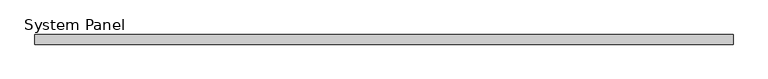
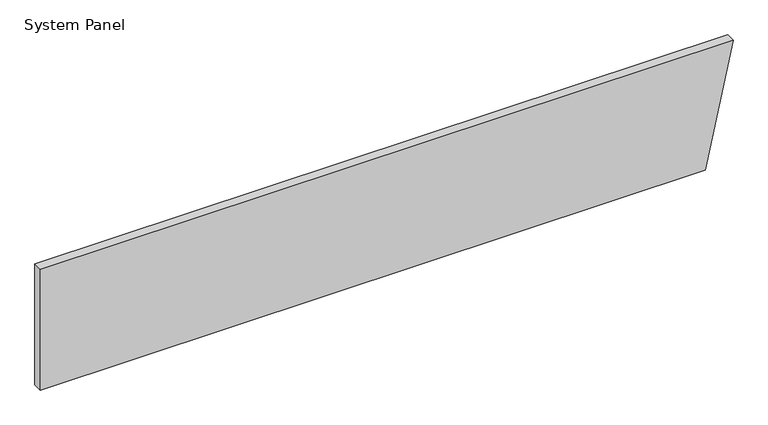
"""IFC4 building model written with IfcOpenShell, lengths in millimetres: plate geometry, System Panel : InsulWall_90mm_Plain_Surfmist."""

from ifc_helpers import new_model, si_unit, frame, origin, place, context, project, spatial, polyline, outline, extrude, source, transform, mapped, element, save


def system_panel_01c06f13(model_context):
    return source(origin(), model_context, "Body", "SweptSolid", [
        extrude(outline(polyline([(0.0, -3255.8716619), (0.0, 2995.0), (1200.0, 3255.8716619), (1200.0, -3255.8716619), (0.0, -3255.8716619)])), frame((0.0, -90.0, 0.0), z_axis=(0.0, 1.0, 0.0), x_axis=(0.0, 0.0, 1.0)), (0.0, 0.0, 1.0), 90.0),
    ])


if __name__ == "__main__":
    model = new_model("IFC4")
    model_context = context("Model", 3, world=origin())
    ifc_project = project(units=[si_unit("LENGTHUNIT", "METRE", prefix="MILLI")], contexts=[model_context])
    site = spatial("IfcSite", under=ifc_project)
    building = spatial("IfcBuilding", under=site)
    placement = place(None, origin())
    system_panel_shape = system_panel_01c06f13(model_context)
    element("IfcPlate", 1, ObjectType="System Panel : InsulWall_90mm_Plain_Surfmist", at=placement, inside=building, context=model_context, shape_type="MappedRepresentation", body=[
        mapped(system_panel_shape, transform((0.0, 0.0, 0.0), x_axis=(1.0, 0.0, 0.0), y_axis=(0.0, 1.0, 0.0), z_axis=(0.0, 0.0, 1.0))),
    ])
    save(model, "model.ifc")
